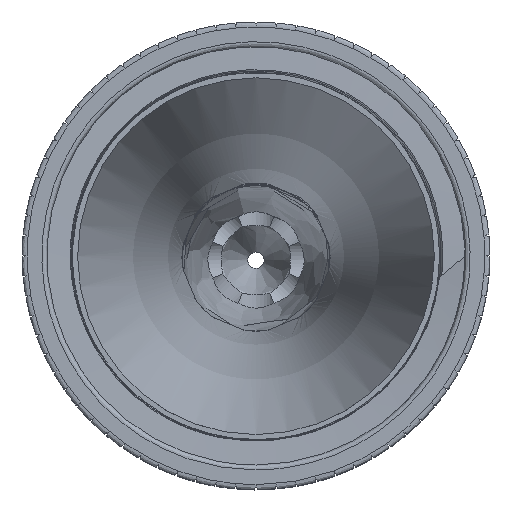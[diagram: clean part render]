
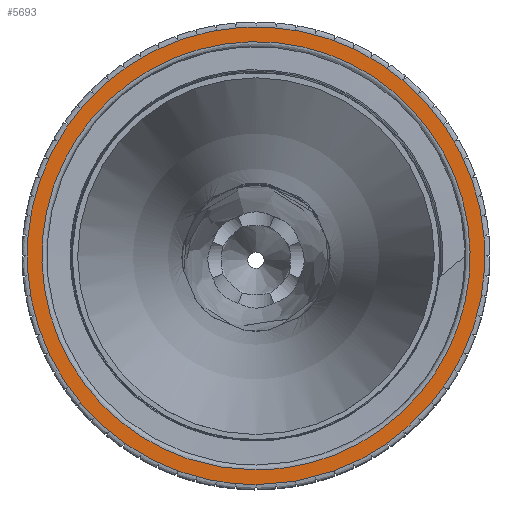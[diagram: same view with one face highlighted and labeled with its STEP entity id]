
A CAD part, top view. The second image highlights one B-rep face of the part: STEP entity #5693.
In plain terms, the highlighted planar face has unit normal (0, 0, 1) as drawn and (0, -1, 0) by its records, which use the part's own axes.
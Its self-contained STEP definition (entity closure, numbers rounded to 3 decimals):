
#285=PLANE('',#6024);
#581=B_SPLINE_CURVE_WITH_KNOTS('',3,(#8434,#8435,#8436,#8437,#8438,#8439,
#8440,#8441,#8442,#8443,#8444,#8445,#8446,#8447,#8448,#8449,#8450,#8451,
#8452),.UNSPECIFIED.,.T.,.F.,(1,1,1,1,1,1,1,1,1,1,1,1,1,1,1,1,1,1,1,1,1,
1,1),(-0.191,-0.128,-0.066,0.,0.059,
0.122,0.184,0.247,0.309,0.372,
0.434,0.497,0.559,0.622,
0.684,0.747,0.809,0.872,
0.934,1.,1.059,1.122,1.184),.UNSPECIFIED.);
#582=B_SPLINE_CURVE_WITH_KNOTS('',3,(#8454,#8455,#8456,#8457,#8458,#8459,
#8460,#8461,#8462,#8463,#8464,#8465,#8466,#8467,#8468,#8469,#8470,#8471,
#8472),.UNSPECIFIED.,.T.,.F.,(1,1,1,1,1,1,1,1,1,1,1,1,1,1,1,1,1,1,1,1,1,
1,1),(-0.191,-0.128,-0.066,0.,0.059,
0.122,0.184,0.247,0.309,0.372,
0.434,0.497,0.559,0.622,
0.684,0.747,0.809,0.872,
0.934,1.,1.059,1.122,1.184),.UNSPECIFIED.);
#1309=ORIENTED_EDGE('',*,*,#3031,.T.);
#1310=ORIENTED_EDGE('',*,*,#3032,.T.);
#3031=EDGE_CURVE('',#3892,#3892,#581,.T.);
#3032=EDGE_CURVE('',#3893,#3893,#582,.T.);
#3892=VERTEX_POINT('',#8453);
#3893=VERTEX_POINT('',#8473);
#4730=EDGE_LOOP('',(#1309));
#4731=EDGE_LOOP('',(#1310));
#5150=FACE_BOUND('',#4730,.T.);
#5151=FACE_BOUND('',#4731,.T.);
#5693=ADVANCED_FACE('',(#5150,#5151),#285,.T.);
#6024=AXIS2_PLACEMENT_3D('',#8433,#6622,#6623);
#6622=DIRECTION('',(0.,-1.,0.));
#6623=DIRECTION('',(0.,0.,-1.));
#8433=CARTESIAN_POINT('',(12.75,0.,0.));
#8434=CARTESIAN_POINT('',(5.308,0.,-12.314));
#8435=CARTESIAN_POINT('',(0.173,0.,-13.39));
#8436=CARTESIAN_POINT('',(-4.945,0.,-12.423));
#8437=CARTESIAN_POINT('',(-9.271,0.,-9.66));
#8438=CARTESIAN_POINT('',(-12.261,0.,-5.381));
#8439=CARTESIAN_POINT('',(-13.387,0.,-0.28));
#8440=CARTESIAN_POINT('',(-12.475,0.,4.864));
#8441=CARTESIAN_POINT('',(-9.664,0.,9.268));
#8442=CARTESIAN_POINT('',(-5.382,0.,12.261));
#8443=CARTESIAN_POINT('',(-0.28,0.,13.387));
#8444=CARTESIAN_POINT('',(4.864,0.,12.475));
#8445=CARTESIAN_POINT('',(9.268,0.,9.664));
#8446=CARTESIAN_POINT('',(12.261,0.,5.382));
#8447=CARTESIAN_POINT('',(13.387,0.,0.28));
#8448=CARTESIAN_POINT('',(12.475,0.,-4.864));
#8449=CARTESIAN_POINT('',(9.664,0.,-9.268));
#8450=CARTESIAN_POINT('',(5.308,0.,-12.314));
#8451=CARTESIAN_POINT('',(0.173,0.,-13.39));
#8452=CARTESIAN_POINT('',(-4.945,0.,-12.423));
#8453=CARTESIAN_POINT('',(0.,0.,-13.05));
#8454=CARTESIAN_POINT('',(-5.674,0.,-13.163));
#8455=CARTESIAN_POINT('',(-0.185,0.,-14.313));
#8456=CARTESIAN_POINT('',(5.286,0.,-13.28));
#8457=CARTESIAN_POINT('',(9.911,0.,-10.326));
#8458=CARTESIAN_POINT('',(13.106,0.,-5.752));
#8459=CARTESIAN_POINT('',(14.31,0.,-0.299));
#8460=CARTESIAN_POINT('',(13.335,0.,5.2));
#8461=CARTESIAN_POINT('',(10.33,0.,9.907));
#8462=CARTESIAN_POINT('',(5.753,0.,13.106));
#8463=CARTESIAN_POINT('',(0.299,0.,14.31));
#8464=CARTESIAN_POINT('',(-5.2,0.,13.335));
#8465=CARTESIAN_POINT('',(-9.907,0.,10.33));
#8466=CARTESIAN_POINT('',(-13.106,0.,5.753));
#8467=CARTESIAN_POINT('',(-14.31,0.,0.299));
#8468=CARTESIAN_POINT('',(-13.335,0.,-5.2));
#8469=CARTESIAN_POINT('',(-10.33,0.,-9.907));
#8470=CARTESIAN_POINT('',(-5.674,0.,-13.163));
#8471=CARTESIAN_POINT('',(-0.185,0.,-14.313));
#8472=CARTESIAN_POINT('',(5.286,0.,-13.28));
#8473=CARTESIAN_POINT('',(0.,0.,-13.95));
